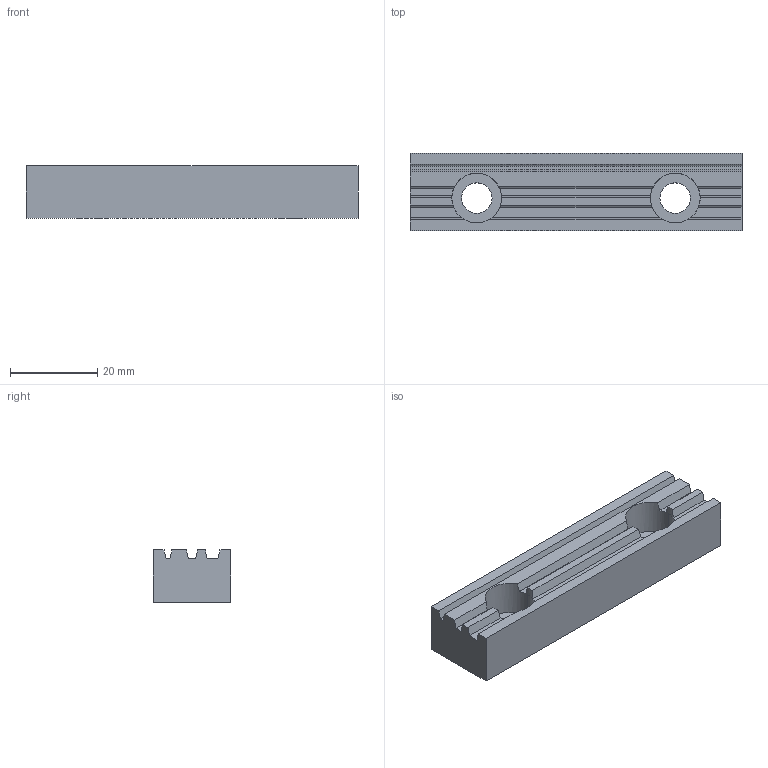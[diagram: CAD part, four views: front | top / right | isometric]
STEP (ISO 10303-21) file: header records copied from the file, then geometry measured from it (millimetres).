
FILE_DESCRIPTION((''),'2;1');
FILE_NAME('QK3','2023-11-27T14:11:29',('95204'),(''),'CREO PARAMETRIC BY PTC INC, 2021023','CREO PARAMETRIC BY PTC INC, 2021023','');
FILE_SCHEMA(('CONFIG_CONTROL_DESIGN'));
Length unit declared in the file: millimetre
Products named in the file (1): QK3
Bounding box: 76.1 x 17.8 x 12 mm (x, y, z)
Volume: 13526.8 mm3; surface area: 6082.8 mm2
Topology: 1 solids, 1 shells, 42 faces, 120 edges, 80 vertices
Faces by surface type: plane 34, cylinder 8
Entity records: 1414 total; most frequent: CARTESIAN_POINT 266, ORIENTED_EDGE 240, DIRECTION 220, EDGE_CURVE 120, VERTEX_POINT 80, AXIS2_PLACEMENT_3D 74, VECTOR 72, LINE 72
